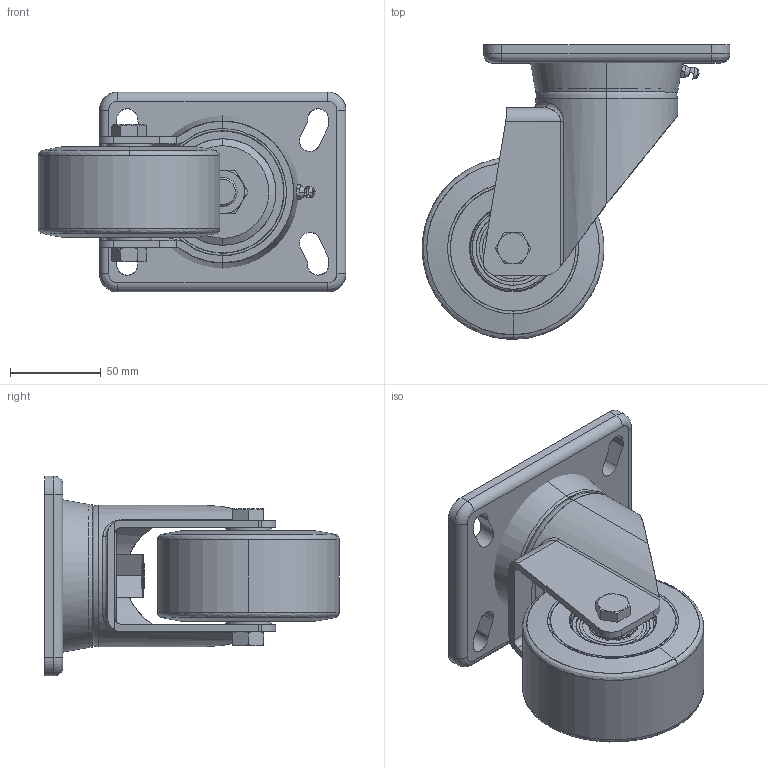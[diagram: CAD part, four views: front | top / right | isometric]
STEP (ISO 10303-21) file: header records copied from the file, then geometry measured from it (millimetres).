
FILE_DESCRIPTION(('STEP AP203'),'2;1');
FILE_NAME('7306_CL.stp','2010-05-03T08:07:50',(''),(''),'2009.1.108','THINKDESIGN','');
FILE_SCHEMA(('CONFIG_CONTROL_DESIGN'));
Length unit declared in the file: millimetre
Bounding box: 169.25 x 162 x 110 mm (x, y, z)
Volume: 20844.8 mm3; surface area: 133868.9 mm2
Topology: 5 solids, 5 shells, 278 faces, 1213 edges, 1171 vertices
Faces by surface type: bspline 114, plane 87, cylinder 77
Full cylindrical faces by diameter (mm): 8.5 x1, 10 x1, 11 x1, 20 x1, 21 x2, 25 x2
Entity records: 22724 total; most frequent: CARTESIAN_POINT 16721, DIRECTION 1113, COMPOSITE_CURVE_SEGMENT 1089, TRIMMED_CURVE 498, B_SPLINE_CURVE_WITH_KNOTS 407, VECTOR 395, LINE 395, AXIS2_PLACEMENT_3D 359
